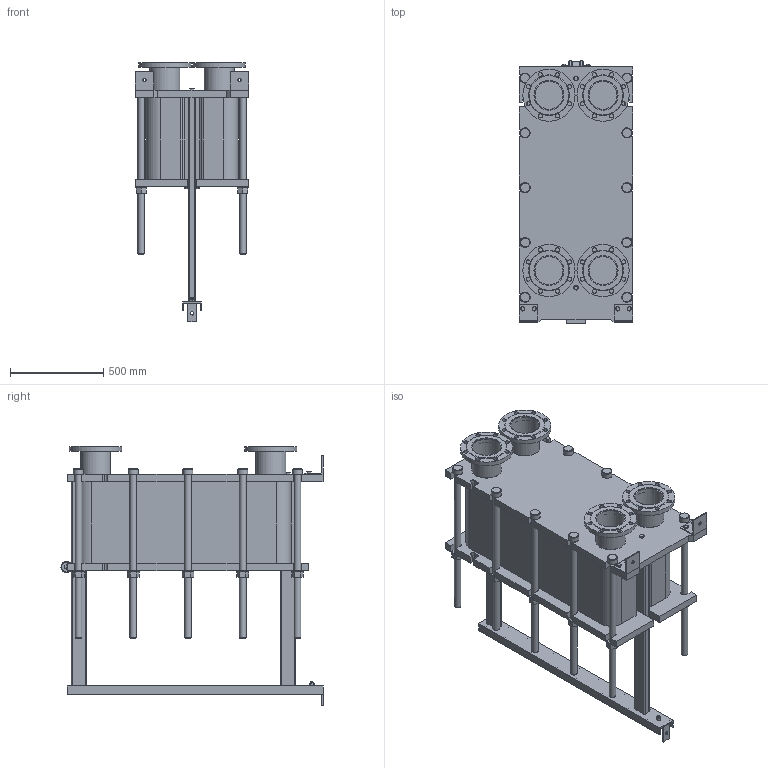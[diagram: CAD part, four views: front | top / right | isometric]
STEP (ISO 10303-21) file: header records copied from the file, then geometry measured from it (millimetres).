
FILE_DESCRIPTION(/* description */ (''),/* implementation_level */ '2;1');
FILE_NAME(/* name */ 'C:\Users\zhuro\Desktop\ENCO\TO\ЭН-041\ЭН-0,5-041-127-1.stp',/* time_stamp */ '2022-06-06T11:00:05+03:00',/* author */ ('zhuro'),/* organization */ (''),/* preprocessor_version */ 'ST-DEVELOPER v18.1',/* originating_system */ 'Autodesk Inventor 2022',/* authorisation */ '');
FILE_SCHEMA (('AUTOMOTIVE_DESIGN { 1 0 10303 214 3 1 1 }'));
Length unit declared in the file: millimetre
Products named in the file (1): ЭН-0,5-041-127-1
Bounding box: 610 x 1406.5 x 1392.5 mm (x, y, z)
Volume: 328802404.7 mm3; surface area: 9619839 mm2
Topology: 52 solids, 52 shells, 711 faces, 1696 edges, 1094 vertices
Faces by surface type: plane 487, cylinder 177, cone 41, torus 6
Full cylindrical faces by diameter (mm): 8 x4, 10 x2, 16 x8, 18 x3, 22 x32, 36 x24, 50 x1, 54 x10, 60 x12, 151 x4, 161 x8, 280 x4
Entity records: 22667 total; most frequent: CARTESIAN_POINT 5230, DIRECTION 3644, ORIENTED_EDGE 3392, EDGE_CURVE 1696, AXIS2_PLACEMENT_3D 1272, LINE 1100, VECTOR 1100, VERTEX_POINT 1094
